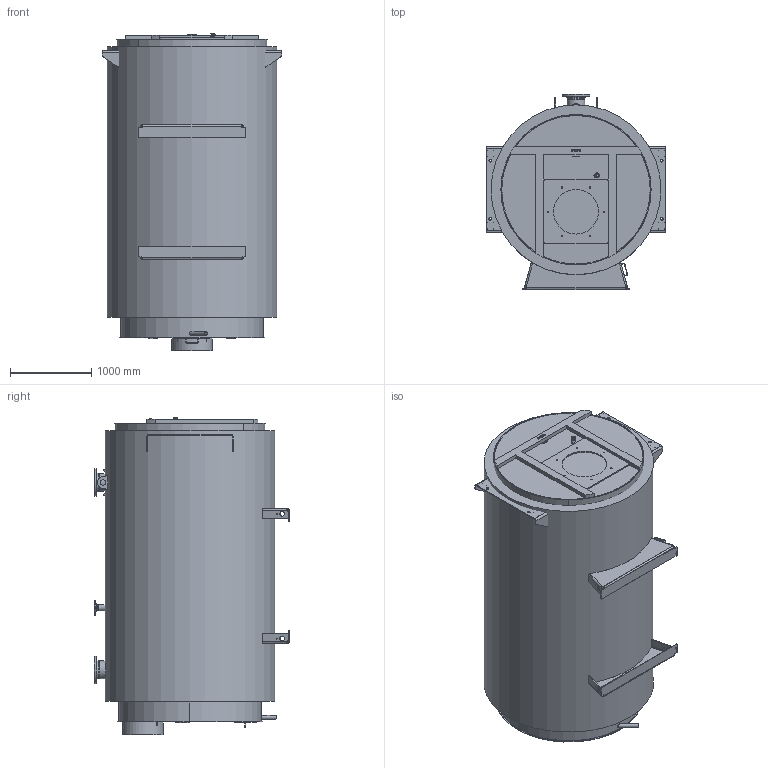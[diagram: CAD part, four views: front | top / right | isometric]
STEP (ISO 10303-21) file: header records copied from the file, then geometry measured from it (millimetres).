
FILE_DESCRIPTION(('TFLEX Exchange Step'),'2;1');
FILE_NAME('M22A007_7926513_H002.stp', '2024-07-31T16:34:37+03:00',('kort'),('Unknown organisation'),'TFLEX Exchange 2024.2','T-FLEX CAD','Unknown authorisation');
FILE_SCHEMA( ('AUTOMOTIVE_DESIGN { 1 0 10303 214 1 1 1 1 }') );
Length unit declared in the file: millimetre
Products named in the file (1): Nodes
Bounding box: 2205 x 2400 x 3902.64 mm (x, y, z)
Volume: 12720185184.3 mm3; surface area: 164876010.5 mm2
Topology: 130 solids, 130 shells, 1398 faces, 3435 edges, 2318 vertices
Faces by surface type: plane 699, cylinder 480, bspline 119, cone 73, torus 21, sphere 6
Full cylindrical faces by diameter (mm): 1 x16, 2.2 x4, 3.2 x4, 3.3 x4, 4 x4, 6.5 x4, 10 x9, 11.45 x1, 12 x12, 13 x4, 14 x4, 14.63 x6, 16 x10, 18 x4, 18.63 x2, 22 x30, 24 x4, 32 x4, 35 x3, 40 x2, 41.1 x1, 41.9 x1, 44.8 x1, 45 x4, 47.8 x1, 48.3 x2, 60 x4, 67.1 x1, 70 x2, 70.3 x1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
Entity records: 54549 total; most frequent: CARTESIAN_POINT 20672, DIRECTION 6884, ORIENTED_EDGE 6826, EDGE_CURVE 3413, AXIS2_PLACEMENT_3D 2551, VERTEX_POINT 2318, VECTOR 1782, LINE 1782
